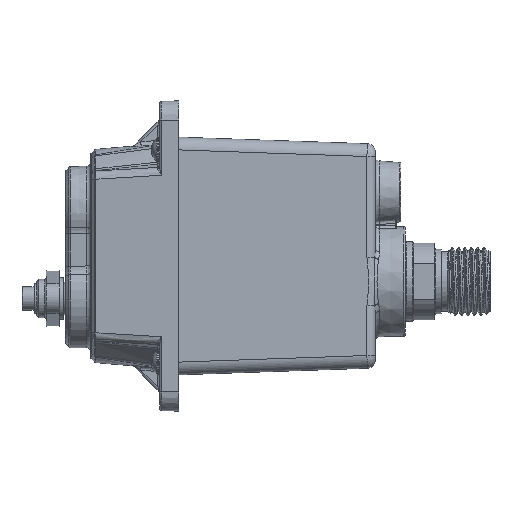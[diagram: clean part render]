
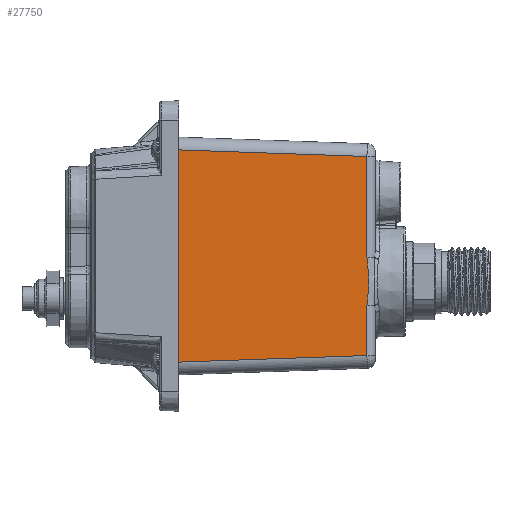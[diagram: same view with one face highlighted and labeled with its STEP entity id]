
A CAD part, left-side view. The second image highlights one B-rep face of the part: STEP entity #27750.
In plain terms, the highlighted planar face has unit normal (-1, -0.018, 0).
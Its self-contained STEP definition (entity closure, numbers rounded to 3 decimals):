
#176 = CARTESIAN_POINT ( 'NONE',  ( -13.712, -31.108, 7.754 ) ) ;
#548 = B_SPLINE_CURVE_WITH_KNOTS ( 'NONE', 3,
 ( #17238, #30480, #37633, #26685, #20392, #34056, #37848, #6905, #17455, #20612, #43711, #176, #13845, #27550 ),
 .UNSPECIFIED., .F., .F.,
 ( 4, 2, 2, 2, 2, 2, 4 ),
 ( 0., 0.003, 0.004, 0.006, 0.007, 0.008, 0.011 ),
 .UNSPECIFIED. ) ;
#1505 = EDGE_CURVE ( 'NONE', #18408, #7932, #32491, .T. ) ;
#3872 = ORIENTED_EDGE ( 'NONE', *, *, #1505, .T. ) ;
#4750 = LINE ( 'NONE', #35500, #8068 ) ;
#6905 = CARTESIAN_POINT ( 'NONE',  ( -13.706, -31.46, 4.464 ) ) ;
#6962 = VERTEX_POINT ( 'NONE', #38759 ) ;
#7013 = VECTOR ( 'NONE', #29297, 1000. ) ;
#7734 = CARTESIAN_POINT ( 'NONE',  ( -13.714, -30.985, -1.637 ) ) ;
#7932 = VERTEX_POINT ( 'NONE', #23287 ) ;
#8068 = VECTOR ( 'NONE', #32815, 1000. ) ;
#8531 = AXIS2_PLACEMENT_3D ( 'NONE', #38621, #24743, #41987 ) ;
#8730 = CARTESIAN_POINT ( 'NONE',  ( -14.487, 13.3, 34.974 ) ) ;
#10417 = CARTESIAN_POINT ( 'NONE',  ( -13.714, -30.985, 9.637 ) ) ;
#10896 = CARTESIAN_POINT ( 'NONE',  ( -14.487, 13.3, -18. ) ) ;
#13845 = CARTESIAN_POINT ( 'NONE',  ( -13.714, -30.985, 8.692 ) ) ;
#14026 = LINE ( 'NONE', #10896, #25671 ) ;
#14651 = VECTOR ( 'NONE', #16522, 1000. ) ;
#15310 = FACE_OUTER_BOUND ( 'NONE', #24877, .T. ) ;
#16522 = DIRECTION ( 'NONE',  ( 0.017, -0.999, 0.035 ) ) ;
#17238 = CARTESIAN_POINT ( 'NONE',  ( -13.714, -30.985, -1.637 ) ) ;
#17455 = CARTESIAN_POINT ( 'NONE',  ( -13.706, -31.435, 4.934 ) ) ;
#18305 = LINE ( 'NONE', #35567, #7013 ) ;
#18408 = VERTEX_POINT ( 'NONE', #37975 ) ;
#20273 = EDGE_CURVE ( 'NONE', #6962, #39345, #26430, .T. ) ;
#20392 = CARTESIAN_POINT ( 'NONE',  ( -13.708, -31.348, 2.117 ) ) ;
#20612 = CARTESIAN_POINT ( 'NONE',  ( -13.708, -31.349, 5.874 ) ) ;
#22678 = EDGE_CURVE ( 'NONE', #25133, #6962, #18305, .T. ) ;
#23287 = CARTESIAN_POINT ( 'NONE',  ( -13.714, -30.985, -13.427 ) ) ;
#23313 = ORIENTED_EDGE ( 'NONE', *, *, #41619, .T. ) ;
#24379 = DIRECTION ( 'NONE',  ( 0., 0., -1. ) ) ;
#24743 = DIRECTION ( 'NONE',  ( -1., -0.017, 0. ) ) ;
#24749 = EDGE_CURVE ( 'NONE', #39872, #25133, #548, .T. ) ;
#24877 = EDGE_LOOP ( 'NONE', ( #3872, #29011, #42502, #28890, #32429, #23313 ) ) ;
#25133 = VERTEX_POINT ( 'NONE', #10417 ) ;
#25671 = VECTOR ( 'NONE', #24379, 1000. ) ;
#26430 = LINE ( 'NONE', #43032, #34800 ) ;
#26685 = CARTESIAN_POINT ( 'NONE',  ( -13.709, -31.288, 1.648 ) ) ;
#27550 = CARTESIAN_POINT ( 'NONE',  ( -13.714, -30.985, 9.637 ) ) ;
#27750 = ADVANCED_FACE ( 'NONE', ( #15310 ), #38391, .T. ) ;
#28890 = ORIENTED_EDGE ( 'NONE', *, *, #22678, .T. ) ;
#29011 = ORIENTED_EDGE ( 'NONE', *, *, #37890, .T. ) ;
#29297 = DIRECTION ( 'NONE',  ( 0., 0., 1. ) ) ;
#30480 = CARTESIAN_POINT ( 'NONE',  ( -13.714, -30.985, -0.698 ) ) ;
#32429 = ORIENTED_EDGE ( 'NONE', *, *, #20273, .T. ) ;
#32491 = LINE ( 'NONE', #40260, #14651 ) ;
#32815 = DIRECTION ( 'NONE',  ( 0., 0., 1. ) ) ;
#34056 = CARTESIAN_POINT ( 'NONE',  ( -13.706, -31.434, 3.055 ) ) ;
#34800 = VECTOR ( 'NONE', #40496, 1000. ) ;
#35500 = CARTESIAN_POINT ( 'NONE',  ( -13.714, -30.985, 33.359 ) ) ;
#35567 = CARTESIAN_POINT ( 'NONE',  ( -13.714, -30.985, 33.359 ) ) ;
#37633 = CARTESIAN_POINT ( 'NONE',  ( -13.712, -31.107, 0.24 ) ) ;
#37848 = CARTESIAN_POINT ( 'NONE',  ( -13.706, -31.46, 3.525 ) ) ;
#37890 = EDGE_CURVE ( 'NONE', #7932, #39872, #4750, .T. ) ;
#37975 = CARTESIAN_POINT ( 'NONE',  ( -14.487, 13.3, -14.974 ) ) ;
#38391 = PLANE ( 'NONE',  #8531 ) ;
#38621 = CARTESIAN_POINT ( 'NONE',  ( -14.5, 14.05, -18. ) ) ;
#38759 = CARTESIAN_POINT ( 'NONE',  ( -13.714, -30.985, 33.427 ) ) ;
#39345 = VERTEX_POINT ( 'NONE', #8730 ) ;
#39872 = VERTEX_POINT ( 'NONE', #7734 ) ;
#40260 = CARTESIAN_POINT ( 'NONE',  ( -13.681, -32.845, -13.362 ) ) ;
#40496 = DIRECTION ( 'NONE',  ( -0.017, 0.999, 0.035 ) ) ;
#41619 = EDGE_CURVE ( 'NONE', #39345, #18408, #14026, .T. ) ;
#41987 = DIRECTION ( 'NONE',  ( 0.017, -1., 0. ) ) ;
#42502 = ORIENTED_EDGE ( 'NONE', *, *, #24749, .T. ) ;
#43032 = CARTESIAN_POINT ( 'NONE',  ( -14.489, 13.405, 34.977 ) ) ;
#43711 = CARTESIAN_POINT ( 'NONE',  ( -13.709, -31.289, 6.344 ) ) ;
